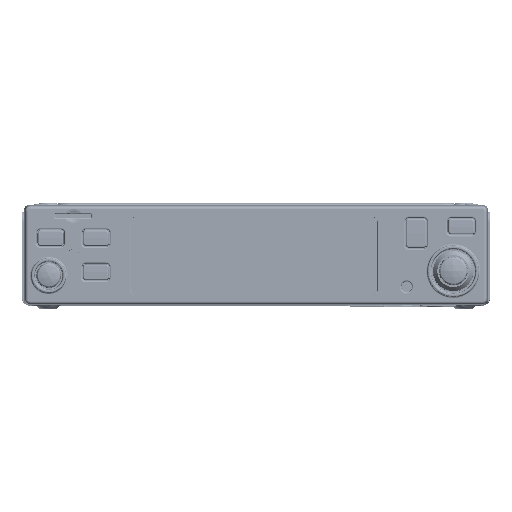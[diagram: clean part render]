
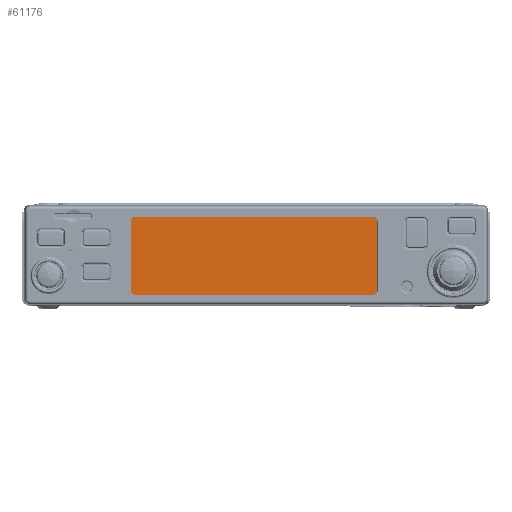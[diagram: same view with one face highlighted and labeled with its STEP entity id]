
A CAD part, top view. The second image highlights one B-rep face of the part: STEP entity #61176.
In plain terms, the highlighted planar face has unit normal (0, 0, 1).
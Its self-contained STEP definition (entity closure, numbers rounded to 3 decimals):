
#4248 = ORIENTED_EDGE ( 'NONE', *, *, #209757, .T. ) ;
#4443 = ORIENTED_EDGE ( 'NONE', *, *, #186148, .T. ) ;
#4662 = CIRCLE ( 'NONE', #246413, 1.518 ) ;
#17154 = VERTEX_POINT ( 'NONE', #256405 ) ;
#41201 = VERTEX_POINT ( 'NONE', #363904 ) ;
#41898 = VERTEX_POINT ( 'NONE', #105091 ) ;
#44392 = LINE ( 'NONE', #301772, #123171 ) ;
#46253 = CARTESIAN_POINT ( 'NONE',  ( 40.07, 3.259, 15.5 ) ) ;
#47649 = AXIS2_PLACEMENT_3D ( 'NONE', #277231, #78481, #193820 ) ;
#50967 = CARTESIAN_POINT ( 'NONE',  ( 41.588, 28.277, 15.5 ) ) ;
#52461 = LINE ( 'NONE', #290722, #252873 ) ;
#61176 = ADVANCED_FACE ( 'NONE', ( #164881 ), #159292, .F. ) ;
#61494 = LINE ( 'NONE', #351005, #104392 ) ;
#66829 = ORIENTED_EDGE ( 'NONE', *, *, #179647, .T. ) ;
#67741 = EDGE_CURVE ( 'NONE', #131632, #126113, #4662, .T. ) ;
#78481 = DIRECTION ( 'NONE',  ( 0., 0., 1. ) ) ;
#87855 = CARTESIAN_POINT ( 'NONE',  ( -42.948, 28.277, 15.5 ) ) ;
#90602 = LINE ( 'NONE', #101764, #133716 ) ;
#90635 = EDGE_CURVE ( 'NONE', #176992, #364308, #144272, .T. ) ;
#95571 = DIRECTION ( 'NONE',  ( 0., -1., 0. ) ) ;
#97610 = ORIENTED_EDGE ( 'NONE', *, *, #67741, .T. ) ;
#97706 = EDGE_CURVE ( 'NONE', #126113, #41898, #44392, .T. ) ;
#101764 = CARTESIAN_POINT ( 'NONE',  ( 41.588, 16.828, 15.5 ) ) ;
#102547 = DIRECTION ( 'NONE',  ( -1., 0., 0. ) ) ;
#104392 = VECTOR ( 'NONE', #231828, 1000. ) ;
#105091 = CARTESIAN_POINT ( 'NONE',  ( -42.948, 4.777, 15.5 ) ) ;
#106164 = DIRECTION ( 'NONE',  ( 0., 0., 1. ) ) ;
#113549 = CARTESIAN_POINT ( 'NONE',  ( -41.43, 28.277, 15.5 ) ) ;
#117351 = CARTESIAN_POINT ( 'NONE',  ( -41.43, 29.796, 15.5 ) ) ;
#121097 = ORIENTED_EDGE ( 'NONE', *, *, #231554, .T. ) ;
#123171 = VECTOR ( 'NONE', #95571, 1000. ) ;
#123948 = CARTESIAN_POINT ( 'NONE',  ( 40.07, 28.277, 15.5 ) ) ;
#126113 = VERTEX_POINT ( 'NONE', #87855 ) ;
#131632 = VERTEX_POINT ( 'NONE', #117351 ) ;
#132464 = CARTESIAN_POINT ( 'NONE',  ( 40.07, 4.778, 15.5 ) ) ;
#133716 = VECTOR ( 'NONE', #273990, 1000. ) ;
#140926 = CIRCLE ( 'NONE', #177160, 1.518 ) ;
#144272 = CIRCLE ( 'NONE', #168308, 1.518 ) ;
#159292 = PLANE ( 'NONE',  #232860 ) ;
#164881 = FACE_OUTER_BOUND ( 'NONE', #249581, .T. ) ;
#168308 = AXIS2_PLACEMENT_3D ( 'NONE', #132464, #363399, #334983 ) ;
#176992 = VERTEX_POINT ( 'NONE', #46253 ) ;
#177160 = AXIS2_PLACEMENT_3D ( 'NONE', #123948, #349261, #354833 ) ;
#179647 = EDGE_CURVE ( 'NONE', #41898, #41201, #301537, .T. ) ;
#186148 = EDGE_CURVE ( 'NONE', #364308, #352441, #90602, .T. ) ;
#193820 = DIRECTION ( 'NONE',  ( -1., 0., 0. ) ) ;
#209757 = EDGE_CURVE ( 'NONE', #41201, #176992, #61494, .T. ) ;
#230198 = DIRECTION ( 'NONE',  ( -1., 0., 0. ) ) ;
#231554 = EDGE_CURVE ( 'NONE', #352441, #17154, #140926, .T. ) ;
#231828 = DIRECTION ( 'NONE',  ( 1., 0., 0. ) ) ;
#232860 = AXIS2_PLACEMENT_3D ( 'NONE', #244539, #359997, #102547 ) ;
#243430 = EDGE_CURVE ( 'NONE', #17154, #131632, #52461, .T. ) ;
#244539 = CARTESIAN_POINT ( 'NONE',  ( 40.07, 28.277, 15.5 ) ) ;
#246413 = AXIS2_PLACEMENT_3D ( 'NONE', #113549, #106164, #312391 ) ;
#249581 = EDGE_LOOP ( 'NONE', ( #300247, #4443, #121097, #284284, #97610, #374186, #66829, #4248 ) ) ;
#252873 = VECTOR ( 'NONE', #230198, 1000. ) ;
#256405 = CARTESIAN_POINT ( 'NONE',  ( 40.07, 29.796, 15.5 ) ) ;
#273990 = DIRECTION ( 'NONE',  ( 0., 1., 0. ) ) ;
#277231 = CARTESIAN_POINT ( 'NONE',  ( -41.43, 4.777, 15.5 ) ) ;
#284284 = ORIENTED_EDGE ( 'NONE', *, *, #243430, .T. ) ;
#290722 = CARTESIAN_POINT ( 'NONE',  ( 0., 29.796, 15.5 ) ) ;
#300247 = ORIENTED_EDGE ( 'NONE', *, *, #90635, .T. ) ;
#301537 = CIRCLE ( 'NONE', #47649, 1.518 ) ;
#301772 = CARTESIAN_POINT ( 'NONE',  ( -42.948, 16.828, 15.5 ) ) ;
#312391 = DIRECTION ( 'NONE',  ( -1., 0., 0. ) ) ;
#334150 = CARTESIAN_POINT ( 'NONE',  ( 41.588, 4.778, 15.5 ) ) ;
#334983 = DIRECTION ( 'NONE',  ( -1., 0., 0. ) ) ;
#349261 = DIRECTION ( 'NONE',  ( 0., 0., 1. ) ) ;
#351005 = CARTESIAN_POINT ( 'NONE',  ( 0., 3.259, 15.5 ) ) ;
#352441 = VERTEX_POINT ( 'NONE', #50967 ) ;
#354833 = DIRECTION ( 'NONE',  ( -1., 0., 0. ) ) ;
#359997 = DIRECTION ( 'NONE',  ( 0., 0., -1. ) ) ;
#363399 = DIRECTION ( 'NONE',  ( 0., 0., 1. ) ) ;
#363904 = CARTESIAN_POINT ( 'NONE',  ( -41.43, 3.259, 15.5 ) ) ;
#364308 = VERTEX_POINT ( 'NONE', #334150 ) ;
#374186 = ORIENTED_EDGE ( 'NONE', *, *, #97706, .T. ) ;
